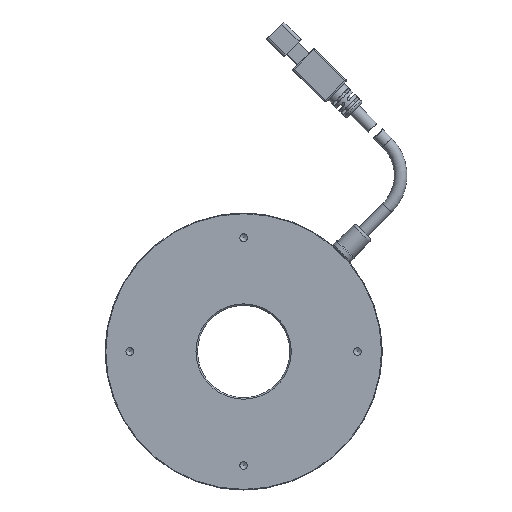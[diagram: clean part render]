
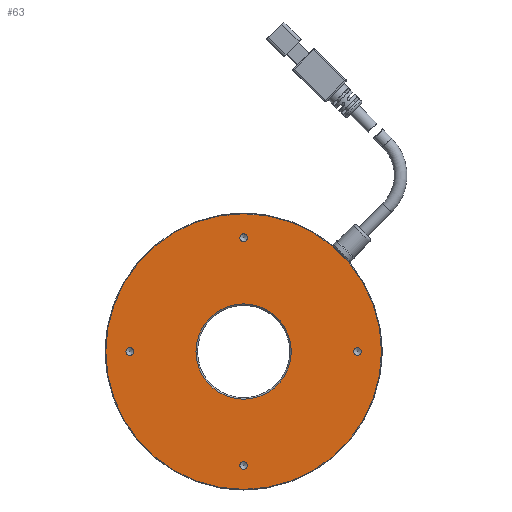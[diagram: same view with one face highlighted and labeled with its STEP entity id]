
A CAD part, front view. The second image highlights one B-rep face of the part: STEP entity #63.
In plain terms, the highlighted planar face has unit normal (0, -1, 0).
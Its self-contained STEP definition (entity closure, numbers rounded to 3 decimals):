
#63 = ADVANCED_FACE ( 'NONE', ( #10613, #8348, #537, #5905, #2176, #4244 ), #989, .F. ) ;
#105 = AXIS2_PLACEMENT_3D ( 'NONE', #3160, #3028, #954 ) ;
#537 = FACE_BOUND ( 'NONE', #10592, .T. ) ;
#544 = DIRECTION ( 'NONE',  ( 0., -1., 0. ) ) ;
#602 = DIRECTION ( 'NONE',  ( 0., 1., 0. ) ) ;
#919 = VERTEX_POINT ( 'NONE', #8335 ) ;
#954 = DIRECTION ( 'NONE',  ( 0., 0., -1. ) ) ;
#989 = PLANE ( 'NONE',  #11989 ) ;
#2078 = VERTEX_POINT ( 'NONE', #5188 ) ;
#2097 = EDGE_CURVE ( 'NONE', #8248, #8248, #8627, .T. ) ;
#2176 = FACE_BOUND ( 'NONE', #3204, .T. ) ;
#2392 = EDGE_LOOP ( 'NONE', ( #12059 ) ) ;
#2424 = CIRCLE ( 'NONE', #9024, 44.8 ) ;
#2427 = EDGE_CURVE ( 'NONE', #9852, #9852, #4699, .T. ) ;
#2515 = DIRECTION ( 'NONE',  ( 0., 0., 1. ) ) ;
#2833 = EDGE_CURVE ( 'NONE', #2078, #2078, #11889, .T. ) ;
#3028 = DIRECTION ( 'NONE',  ( 0., -1., 0. ) ) ;
#3160 = CARTESIAN_POINT ( 'NONE',  ( -37., 0., 0. ) ) ;
#3204 = EDGE_LOOP ( 'NONE', ( #7375 ) ) ;
#3508 = DIRECTION ( 'NONE',  ( 0., 0., -1. ) ) ;
#4244 = FACE_BOUND ( 'NONE', #2392, .T. ) ;
#4374 = CIRCLE ( 'NONE', #8719, 1.25 ) ;
#4542 = DIRECTION ( 'NONE',  ( 0., -1., 0. ) ) ;
#4699 = CIRCLE ( 'NONE', #9730, 1.25 ) ;
#5188 = CARTESIAN_POINT ( 'NONE',  ( 0., 0., 15.5 ) ) ;
#5217 = AXIS2_PLACEMENT_3D ( 'NONE', #9049, #602, #5818 ) ;
#5623 = EDGE_LOOP ( 'NONE', ( #8756 ) ) ;
#5790 = ORIENTED_EDGE ( 'NONE', *, *, #8590, .F. ) ;
#5818 = DIRECTION ( 'NONE',  ( 0., 0., 1. ) ) ;
#5905 = FACE_BOUND ( 'NONE', #8660, .T. ) ;
#6054 = CARTESIAN_POINT ( 'NONE',  ( -45., 0., 0. ) ) ;
#6287 = DIRECTION ( 'NONE',  ( 0., 0., -1. ) ) ;
#6598 = CARTESIAN_POINT ( 'NONE',  ( 0., 0., 0. ) ) ;
#6845 = ORIENTED_EDGE ( 'NONE', *, *, #9118, .T. ) ;
#7375 = ORIENTED_EDGE ( 'NONE', *, *, #2097, .F. ) ;
#7414 = CARTESIAN_POINT ( 'NONE',  ( 0., 0., -38.25 ) ) ;
#7807 = DIRECTION ( 'NONE',  ( 0., 0., -1. ) ) ;
#7898 = EDGE_LOOP ( 'NONE', ( #6845 ) ) ;
#8059 = VERTEX_POINT ( 'NONE', #11490 ) ;
#8117 = DIRECTION ( 'NONE',  ( 0., 0., 1. ) ) ;
#8248 = VERTEX_POINT ( 'NONE', #7414 ) ;
#8335 = CARTESIAN_POINT ( 'NONE',  ( 0., 0., 44.8 ) ) ;
#8348 = FACE_OUTER_BOUND ( 'NONE', #7898, .T. ) ;
#8590 = EDGE_CURVE ( 'NONE', #8059, #8059, #4374, .T. ) ;
#8627 = CIRCLE ( 'NONE', #12656, 1.25 ) ;
#8660 = EDGE_LOOP ( 'NONE', ( #5790 ) ) ;
#8719 = AXIS2_PLACEMENT_3D ( 'NONE', #10932, #544, #3508 ) ;
#8756 = ORIENTED_EDGE ( 'NONE', *, *, #2833, .T. ) ;
#9024 = AXIS2_PLACEMENT_3D ( 'NONE', #6598, #4542, #2515 ) ;
#9049 = CARTESIAN_POINT ( 'NONE',  ( 0., 0., 0. ) ) ;
#9118 = EDGE_CURVE ( 'NONE', #919, #919, #2424, .T. ) ;
#9730 = AXIS2_PLACEMENT_3D ( 'NONE', #13033, #9886, #7807 ) ;
#9852 = VERTEX_POINT ( 'NONE', #12562 ) ;
#9886 = DIRECTION ( 'NONE',  ( 0., -1., 0. ) ) ;
#10141 = DIRECTION ( 'NONE',  ( 0., 1., 0. ) ) ;
#10592 = EDGE_LOOP ( 'NONE', ( #11673 ) ) ;
#10613 = FACE_BOUND ( 'NONE', #5623, .T. ) ;
#10710 = CIRCLE ( 'NONE', #105, 1.25 ) ;
#10932 = CARTESIAN_POINT ( 'NONE',  ( 37., 0., 0. ) ) ;
#11333 = VERTEX_POINT ( 'NONE', #12971 ) ;
#11490 = CARTESIAN_POINT ( 'NONE',  ( 37., 0., -1.25 ) ) ;
#11493 = CARTESIAN_POINT ( 'NONE',  ( 0., 0., -37. ) ) ;
#11673 = ORIENTED_EDGE ( 'NONE', *, *, #2427, .F. ) ;
#11889 = CIRCLE ( 'NONE', #5217, 15.5 ) ;
#11989 = AXIS2_PLACEMENT_3D ( 'NONE', #6054, #10141, #8117 ) ;
#12059 = ORIENTED_EDGE ( 'NONE', *, *, #12322, .F. ) ;
#12322 = EDGE_CURVE ( 'NONE', #11333, #11333, #10710, .T. ) ;
#12562 = CARTESIAN_POINT ( 'NONE',  ( 0., 0., 35.75 ) ) ;
#12567 = DIRECTION ( 'NONE',  ( 0., -1., 0. ) ) ;
#12656 = AXIS2_PLACEMENT_3D ( 'NONE', #11493, #12567, #6287 ) ;
#12971 = CARTESIAN_POINT ( 'NONE',  ( -37., 0., -1.25 ) ) ;
#13033 = CARTESIAN_POINT ( 'NONE',  ( 0., 0., 37. ) ) ;
